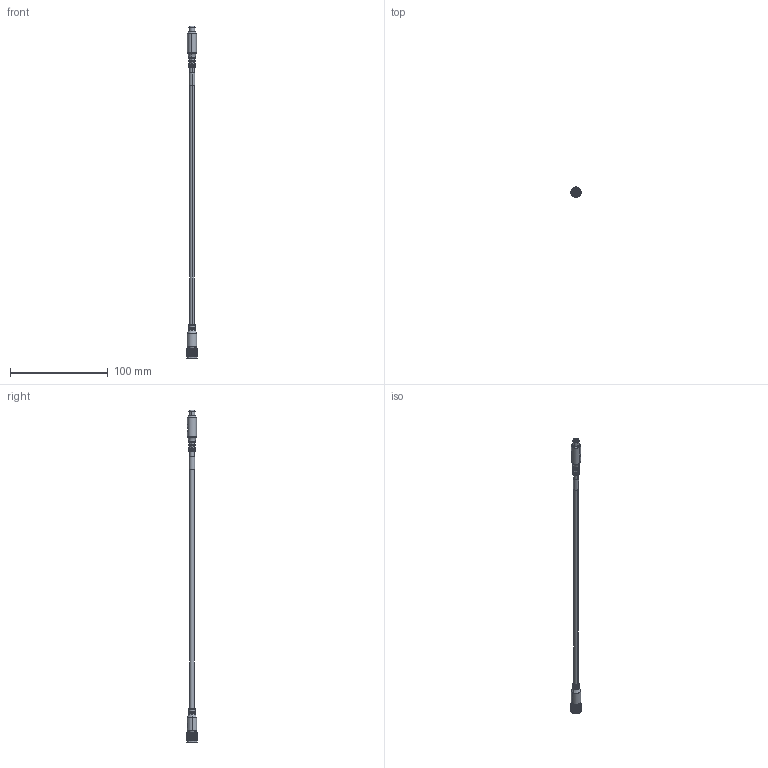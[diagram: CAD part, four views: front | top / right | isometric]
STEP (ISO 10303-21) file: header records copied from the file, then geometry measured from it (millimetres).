
FILE_DESCRIPTION((''),'2;1');
FILE_NAME('889P-F3UBPG-2_ASM','2015-05-21T',('20066374'),('Rockwell Automation'),'PRO/ENGINEER BY PARAMETRIC TECHNOLOGY CORPORATION, 2009140','PRO/ENGINEER BY PARAMETRIC TECHNOLOGY CORPORATION, 2009140','');
FILE_SCHEMA(('CONFIG_CONTROL_DESIGN'));
Length unit declared in the file: inch
Products named in the file (3): 889P-G3AB-2; 889P-F3AB-2; 889P-F3UBPG-2_ASM
Assembly tree (2 placements, depth 2):
  889P-F3UBPG-2_ASM
    889P-G3AB-2
    889P-F3AB-2
Bounding box: 10.54 x 10.54 x 340.38 mm (x, y, z)
Volume: 7978.8 mm3; surface area: 7540.1 mm2
Topology: 5 solids, 5 shells, 596 faces, 1462 edges, 904 vertices
Faces by surface type: cylinder 255, plane 185, cone 120, torus 36
Entity records: 18179 total; most frequent: CARTESIAN_POINT 3802, DIRECTION 3155, ORIENTED_EDGE 2924, EDGE_CURVE 1462, AXIS2_PLACEMENT_3D 1211, VERTEX_POINT 904, VECTOR 733, LINE 733
